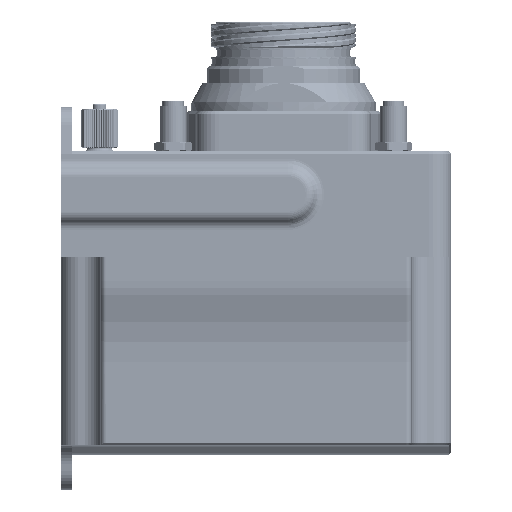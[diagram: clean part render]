
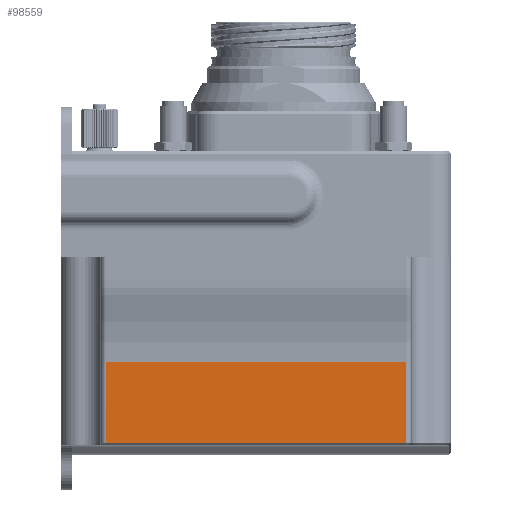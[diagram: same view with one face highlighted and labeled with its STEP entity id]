
A CAD part, front view. The second image highlights one B-rep face of the part: STEP entity #98559.
In plain terms, the highlighted planar face has unit normal (0, -1, 0).
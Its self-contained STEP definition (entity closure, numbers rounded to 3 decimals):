
#8246=PLANE('',#108023);
#13485=FACE_OUTER_BOUND('',#19596,.T.);
#19596=EDGE_LOOP('',(#86405,#86406,#86407,#86408));
#25919=LINE('',#183806,#32370);
#26022=LINE('',#184155,#32473);
#26032=LINE('',#184177,#32483);
#26033=LINE('',#184180,#32484);
#32370=VECTOR('',#132718,10.);
#32473=VECTOR('',#133083,10.);
#32483=VECTOR('',#133101,10.);
#32484=VECTOR('',#133106,10.);
#45663=VERTEX_POINT('',#183799);
#45666=VERTEX_POINT('',#183804);
#45781=VERTEX_POINT('',#184150);
#45789=VERTEX_POINT('',#184176);
#59214=EDGE_CURVE('',#45666,#45663,#25919,.T.);
#59388=EDGE_CURVE('',#45663,#45781,#26022,.T.);
#59399=EDGE_CURVE('',#45781,#45789,#26032,.T.);
#59401=EDGE_CURVE('',#45789,#45666,#26033,.T.);
#86405=ORIENTED_EDGE('',*,*,#59214,.F.);
#86406=ORIENTED_EDGE('',*,*,#59401,.F.);
#86407=ORIENTED_EDGE('',*,*,#59399,.F.);
#86408=ORIENTED_EDGE('',*,*,#59388,.F.);
#98559=ADVANCED_FACE('',(#13485),#8246,.T.);
#108023=AXIS2_PLACEMENT_3D('',#184179,#133104,#133105);
#132718=DIRECTION('',(-1.,0.,0.));
#133083=DIRECTION('',(0.,0.,1.));
#133101=DIRECTION('',(1.,0.,0.));
#133104=DIRECTION('center_axis',(0.,-1.,0.));
#133105=DIRECTION('ref_axis',(0.,0.,
-1.));
#133106=DIRECTION('',(0.,0.,-1.));
#183799=CARTESIAN_POINT('',(8.2,-60.,0.5));
#183804=CARTESIAN_POINT('',(61.8,-60.,0.5));
#183806=CARTESIAN_POINT('',(0.,-60.,0.5));
#184150=CARTESIAN_POINT('',(8.2,-60.,15.));
#184155=CARTESIAN_POINT('',(8.2,-60.,24.35));
#184176=CARTESIAN_POINT('',(61.8,-60.,15.));
#184177=CARTESIAN_POINT('',(0.,-60.,15.));
#184179=CARTESIAN_POINT('Origin',(0.,-60.,
15.));
#184180=CARTESIAN_POINT('',(61.8,-60.,24.35));
